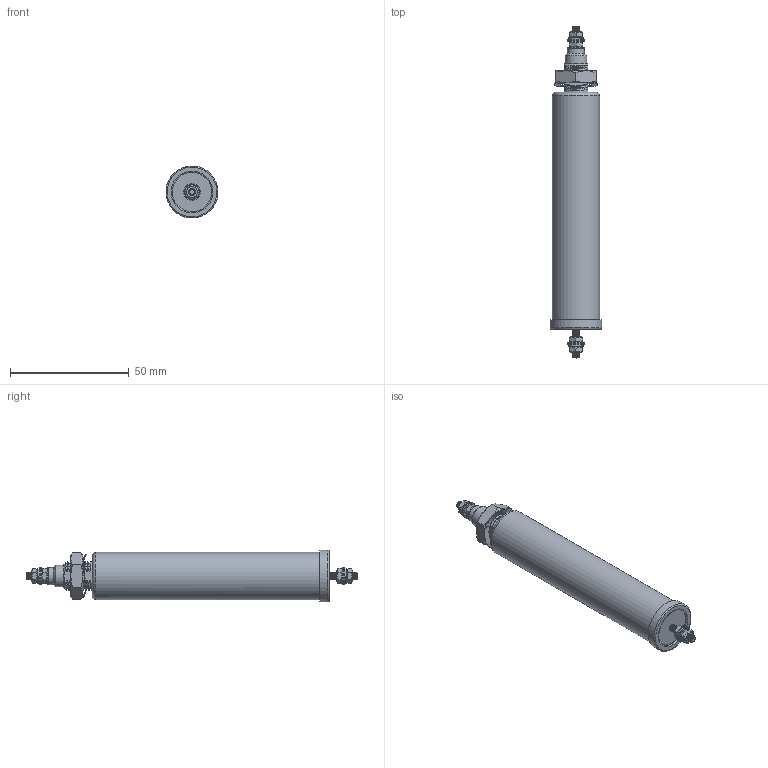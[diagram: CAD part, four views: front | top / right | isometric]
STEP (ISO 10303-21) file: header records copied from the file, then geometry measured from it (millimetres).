
FILE_DESCRIPTION(/* description */ (''),/* implementation_level */ '2;1');
FILE_NAME(/* name */ 'C:\SapWorkDir\Inventor\P01\ConvertTempPath\187985_IPT_000.ipt.stp',/* time_stamp */ '2018-01-23T16:42:03+07:00',/* author */ ('Eakchai.Yodchai'),/* organization */ ('Schaffner Thailand Ltd.'),/* preprocessor_version */ 'ST-DEVELOPER v16.5',/* originating_system */ 'Autodesk Inventor 2017',/* authorisation */ '');
FILE_SCHEMA (('AUTOMOTIVE_DESIGN { 1 0 10303 214 3 1 1 }'));
Length unit declared in the file: millimetre
Products named in the file (1): 801808
Bounding box: 21.89 x 140 x 21.89 mm (x, y, z)
Volume: 34093 mm3; surface area: 12047.5 mm2
Topology: 1 solids, 2 shells, 234 faces, 635 edges, 410 vertices
Faces by surface type: cylinder 76, plane 69, bspline 48, cone 37, torus 4
Full cylindrical faces by diameter (mm): 3.1 x1, 3.2 x5, 5.7 x1, 7 x5, 7.2 x1, 9.1 x1, 10.917 x2, 13.3 x1, 16.55 x1, 19 x1, 19.1 x1, 20 x1, 20.25 x1, 21.95 x1
Entity records: 20204 total; most frequent: CARTESIAN_POINT 14985, ORIENTED_EDGE 1150, DIRECTION 774, EDGE_CURVE 575, VERTEX_POINT 391, AXIS2_PLACEMENT_3D 313, EDGE_LOOP 304, FACE_OUTER_BOUND 229
